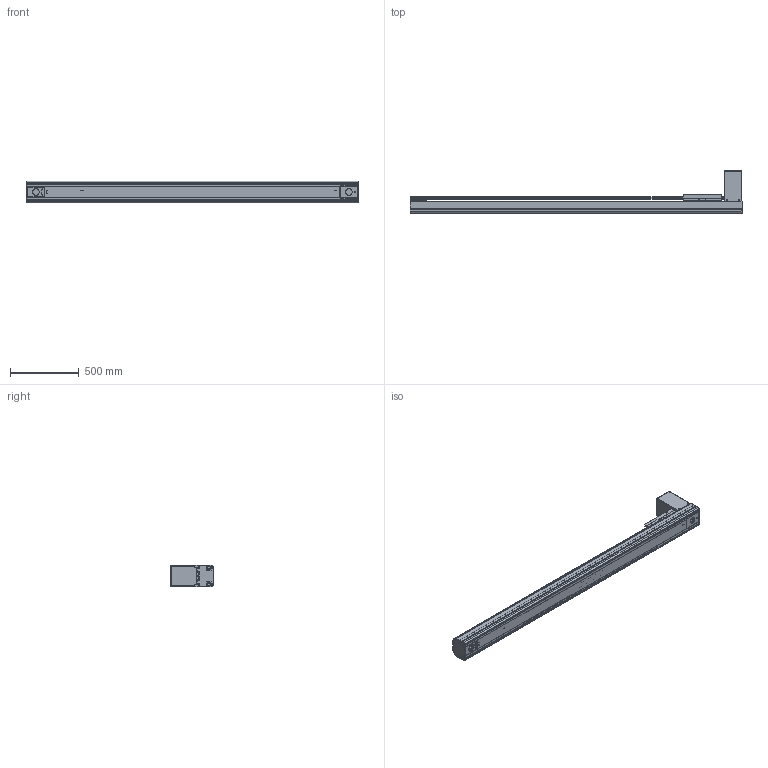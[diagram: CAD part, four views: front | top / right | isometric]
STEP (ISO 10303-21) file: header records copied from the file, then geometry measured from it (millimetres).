
FILE_DESCRIPTION((''),'2;1');
FILE_NAME('BE50G-BT-L19N-J5_IGS_PRT','2017-06-18T',(' '),(''),'PRO/ENGINEER BY PARAMETRIC TECHNOLOGY CORPORATION, 2015030','PRO/ENGINEER BY PARAMETRIC TECHNOLOGY CORPORATION, 2015030','');
FILE_SCHEMA(('CONFIG_CONTROL_DESIGN'));
Products named in the file (1): BE50G-BT-L19N-J5_IGS_PRT
Bounding box: 2420 x 309 x 160 mm (x, y, z)
Volume: 9391151.3 mm3; surface area: 4291170.7 mm2
Topology: 9 solids, 174 shells, 2063 faces, 5871 edges, 3918 vertices
Faces by surface type: cylinder 1057, plane 801, cone 162, sphere 23, torus 20
Entity records: 70231 total; most frequent: CARTESIAN_POINT 15798, DIRECTION 11392, ORIENTED_EDGE 10942, EDGE_CURVE 5797, AXIS2_PLACEMENT_3D 4295, VERTEX_POINT 3918, VECTOR 2802, LINE 2802
